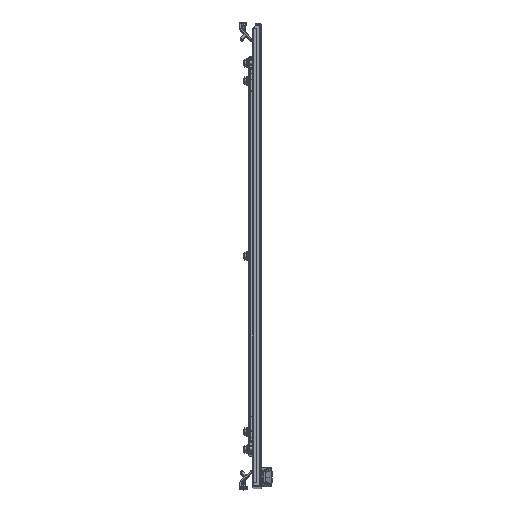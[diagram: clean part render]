
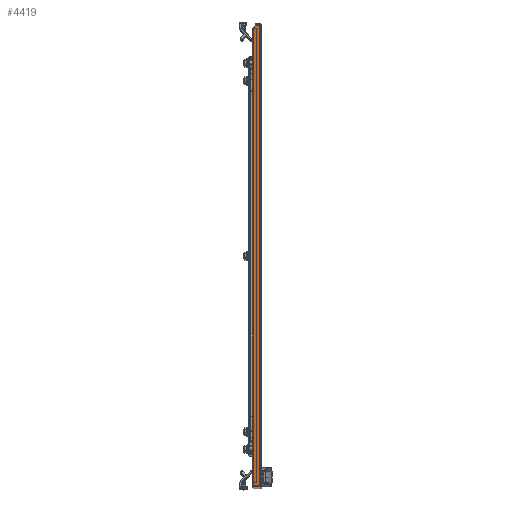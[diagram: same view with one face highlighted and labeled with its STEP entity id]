
A CAD part, top view. The second image highlights one B-rep face of the part: STEP entity #4419.
In plain terms, the highlighted planar face has unit normal (0, 0, 1).
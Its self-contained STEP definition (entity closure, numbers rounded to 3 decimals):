
#4419=ADVANCED_FACE('',(#12350),#12352,.T.);
#12350=FACE_BOUND('',#12351,.T.);
#12351=EDGE_LOOP('',(#31887,#31888,#31889,#31890,#31891,#31892,#31893,#31894,#31895));
#12352=PLANE('',#12353);
#12353=AXIS2_PLACEMENT_3D('',#12354,#12355,#12356);
#12354=CARTESIAN_POINT('',(-13.5,-393.2,985.5));
#12355=DIRECTION('',(0.,0.,1.));
#12356=DIRECTION('',(1.,0.,0.));
#31887=ORIENTED_EDGE('',*,*,#38756,.T.);
#31888=ORIENTED_EDGE('',*,*,#38762,.F.);
#31889=ORIENTED_EDGE('',*,*,#38763,.T.);
#31890=ORIENTED_EDGE('',*,*,#38764,.T.);
#31891=ORIENTED_EDGE('',*,*,#38765,.T.);
#31892=ORIENTED_EDGE('',*,*,#38766,.F.);
#31893=ORIENTED_EDGE('',*,*,#38767,.T.);
#31894=ORIENTED_EDGE('',*,*,#38768,.T.);
#31895=ORIENTED_EDGE('',*,*,#38719,.T.);
#38719=EDGE_CURVE('',#42251,#42249,#42252,.T.);
#38756=EDGE_CURVE('',#42249,#42314,#42316,.T.);
#38762=EDGE_CURVE('',#42325,#42314,#42326,.T.);
#38763=EDGE_CURVE('',#42325,#42327,#42328,.F.);
#38764=EDGE_CURVE('',#42327,#42329,#42330,.T.);
#38765=EDGE_CURVE('',#42329,#42331,#42332,.T.);
#38766=EDGE_CURVE('',#42333,#42331,#42334,.T.);
#38767=EDGE_CURVE('',#42333,#42335,#42336,.F.);
#38768=EDGE_CURVE('',#42335,#42251,#42337,.F.);
#42249=VERTEX_POINT('',#48218);
#42251=VERTEX_POINT('',#48223);
#42252=LINE('',#48224,#48225);
#42314=VERTEX_POINT('',#48367);
#42316=LINE('',#48371,#48372);
#42325=VERTEX_POINT('',#48394);
#42326=LINE('',#48395,#48396);
#42327=VERTEX_POINT('',#48398);
#42328=CIRCLE('',#48399,2.8);
#42329=VERTEX_POINT('',#48403);
#42330=LINE('',#48404,#48405);
#42331=VERTEX_POINT('',#48407);
#42332=LINE('',#48408,#48409);
#42333=VERTEX_POINT('',#48411);
#42334=LINE('',#48412,#48413);
#42335=VERTEX_POINT('',#48415);
#42336=CIRCLE('',#48416,1.55);
#42337=LINE('',#48420,#48421);
#48218=CARTESIAN_POINT('',(-11.95,-388.,985.5));
#48223=CARTESIAN_POINT('',(-11.95,387.859,985.5));
#48224=CARTESIAN_POINT('',(-11.95,387.859,985.5));
#48225=VECTOR('',#48226,1.);
#48226=DIRECTION('',(0.,-1.,0.));
#48367=CARTESIAN_POINT('',(-13.5,-388.,985.5));
#48371=CARTESIAN_POINT('',(-11.95,-388.,985.5));
#48372=VECTOR('',#48373,1.);
#48373=DIRECTION('',(-1.,0.,0.));
#48394=CARTESIAN_POINT('',(-13.5,-393.2,985.5));
#48395=CARTESIAN_POINT('',(-13.5,-393.2,985.5));
#48396=VECTOR('',#48397,1.);
#48397=DIRECTION('',(0.,1.,0.));
#48398=CARTESIAN_POINT('',(-10.7,-396.,985.5));
#48399=AXIS2_PLACEMENT_3D('',#48400,#48401,#48402);
#48400=CARTESIAN_POINT('',(-10.7,-393.2,985.5));
#48401=DIRECTION('',(0.,0.,-1.));
#48402=DIRECTION('',(0.,-1.,0.));
#48403=CARTESIAN_POINT('',(-1.3,-396.,985.5));
#48404=CARTESIAN_POINT('',(-10.7,-396.,985.5));
#48405=VECTOR('',#48406,1.);
#48406=DIRECTION('',(1.,0.,0.));
#48407=CARTESIAN_POINT('',(-1.3,396.,985.5));
#48408=CARTESIAN_POINT('',(-1.3,-396.,985.5));
#48409=VECTOR('',#48410,1.);
#48410=DIRECTION('',(0.,1.,0.));
#48411=CARTESIAN_POINT('',(-7.95,396.,985.5));
#48412=CARTESIAN_POINT('',(-7.95,396.,985.5));
#48413=VECTOR('',#48414,1.);
#48414=DIRECTION('',(1.,0.,0.));
#48415=CARTESIAN_POINT('',(-9.226,393.57,985.5));
#48416=AXIS2_PLACEMENT_3D('',#48417,#48418,#48419);
#48417=CARTESIAN_POINT('',(-7.95,394.45,985.5));
#48418=DIRECTION('',(0.,0.,-1.));
#48419=DIRECTION('',(-0.823,-0.568,0.));
#48420=CARTESIAN_POINT('',(-11.95,387.859,985.5));
#48421=VECTOR('',#48422,1.);
#48422=DIRECTION('',(0.431,0.903,0.));
